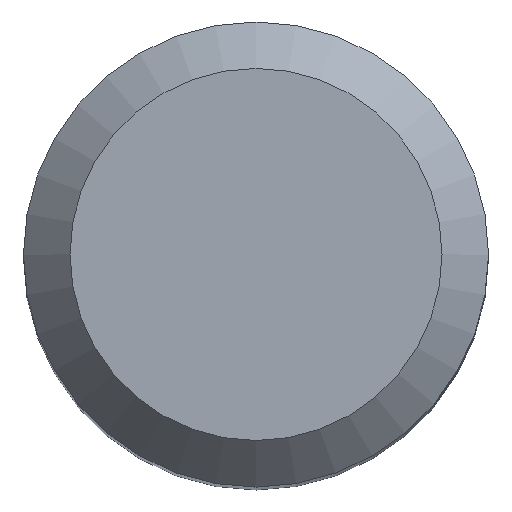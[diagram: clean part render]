
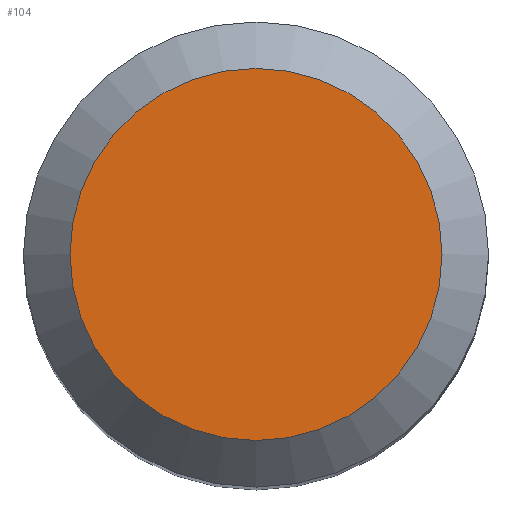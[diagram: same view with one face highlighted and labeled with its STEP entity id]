
A CAD part, top view. The second image highlights one B-rep face of the part: STEP entity #104.
In plain terms, the highlighted planar face has unit normal (0, 0, 1).
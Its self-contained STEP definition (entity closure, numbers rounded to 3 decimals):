
#88=CARTESIAN_POINT('',(4.8,0.0,80.0));
#89=DIRECTION('',(0.0,0.0,1.0));
#90=DIRECTION('',(1.0,0.0,0.0));
#91=AXIS2_PLACEMENT_3D('',#88,#89,#90);
#92=PLANE('',#91);
#93=CARTESIAN_POINT('',(-4.8,0.0,80.));
#94=VERTEX_POINT('',#93);
#95=CARTESIAN_POINT('',(0.0,0.0,80.));
#96=DIRECTION('',(0.0,0.0,-1.0));
#97=DIRECTION('',(-1.0,0.0,0.0));
#98=AXIS2_PLACEMENT_3D('',#95,#96,#97);
#99=CIRCLE('',#98,4.8);
#100=EDGE_CURVE('',#94,#94,#99,.T.);
#101=ORIENTED_EDGE('',*,*,#100,.F.);
#102=EDGE_LOOP('',(#101));
#103=FACE_OUTER_BOUND('',#102,.T.);
#104=ADVANCED_FACE('',(#103),#92,.T.);
